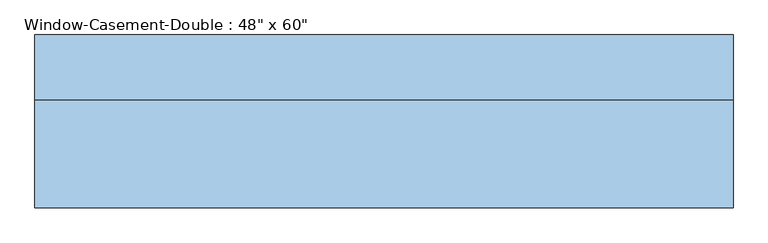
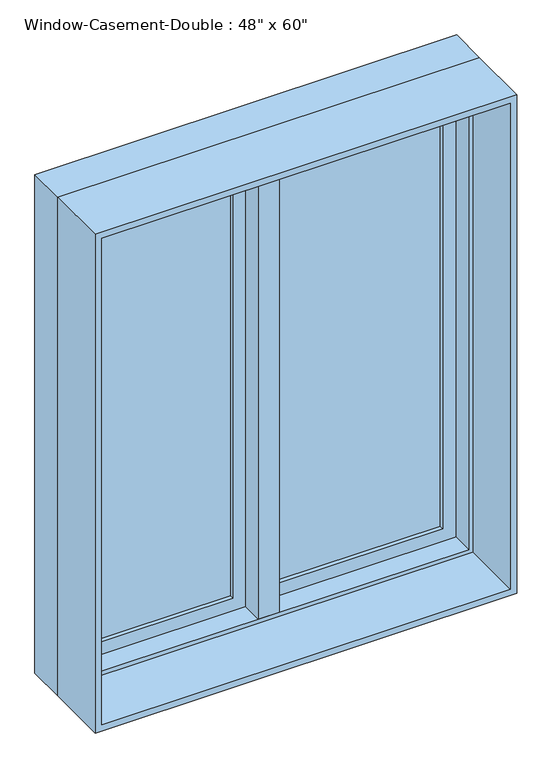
"""IFC4 building model written with IfcOpenShell, lengths in millimetres: window geometry."""

from ifc_helpers import new_model, si_unit, frame, origin, place, context, project, spatial, polyline, outline, extrude, faceted_brep, source, transform, mapped, element, save


def window_33528cc2(model_context):
    return source(origin(), model_context, "Body", "SolidModel", [
        faceted_brep([(9.525, 160.3375, 2425.7), (-9.525, 160.3375, 2425.7), (-9.525, 109.5375, 2425.7), (9.525, 109.5375, 2425.7), (9.525, 160.3375, 927.1), (9.525, 109.5375, 927.1), (-9.525, 109.5375, 927.1), (-9.525, 160.3375, 927.1), (-9.525, 109.5375, 946.15), (-9.525, 109.5375, 2406.65), (-30.1625, 109.5375, 946.15), (-30.1625, 109.5375, 2406.65), (-30.1625, 46.0375, 946.15), (-30.1625, 46.0375, 2406.65), (30.1625, 46.0375, 946.15), (30.1625, 46.0375, 2406.65), (30.1625, 109.5375, 946.15), (30.1625, 109.5375, 2406.65), (9.525, 109.5375, 946.15), (9.525, 109.5375, 2406.65)], [[[0, 1, 2, 3]], [[4, 5, 6, 7]], [[1, 0, 4, 7]], [[2, 1, 7, 6, 8, 9]], [[9, 8, 10, 11]], [[11, 10, 12, 13]], [[13, 12, 14, 15]], [[15, 14, 16, 17]], [[17, 16, 18, 19]], [[0, 3, 19, 18, 5, 4]], [[18, 8, 6, 5]], [[9, 19, 3, 2]], [[8, 18, 16, 14, 12, 10]], [[19, 9, 11, 13, 15, 17]]]),
        extrude(outline(polyline([(-66.675, 141.2875), (-66.675, 134.9375), (-539.75, 134.9375), (-539.75, 141.2875), (-66.675, 141.2875)])), frame((0.0, 0.0, 984.25), z_axis=(0.0, 0.0, 1.0), x_axis=(1.0, 0.0, 0.0)), (0.0, 0.0, 1.0), 1384.3),
        extrude(outline(polyline([(-539.75, 122.2375), (-539.75, 128.5875), (-66.675, 128.5875), (-66.675, 122.2375), (-539.75, 122.2375)])), frame((0.0, 0.0, 984.25), z_axis=(0.0, 0.0, 1.0), x_axis=(1.0, 0.0, 0.0)), (0.0, 0.0, 1.0), 1384.3),
        extrude(outline(polyline([(539.75, 141.2875), (539.75, 134.9375), (66.675, 134.9375), (66.675, 141.2875), (539.75, 141.2875)])), frame((0.0, 0.0, 984.25), z_axis=(0.0, 0.0, 1.0), x_axis=(1.0, 0.0, 0.0)), (0.0, 0.0, 1.0), 1384.3),
        extrude(outline(polyline([(66.675, 122.2375), (66.675, 128.5875), (539.75, 128.5875), (539.75, 122.2375), (66.675, 122.2375)])), frame((0.0, 0.0, 984.25), z_axis=(0.0, 0.0, 1.0), x_axis=(1.0, 0.0, 0.0)), (0.0, 0.0, 1.0), 1384.3),
        extrude(outline(polyline([(2425.7, -596.9), (927.1, -596.9), (927.1, -9.525), (2425.7, -9.525), (2425.7, -596.9)]), holes=[polyline([(2368.55, -66.675), (984.25, -66.675), (984.25, -539.75), (2368.55, -539.75), (2368.55, -66.675)])]), frame((0.0, 109.5375, 0.0), z_axis=(0.0, 1.0, 0.0), x_axis=(0.0, 0.0, 1.0)), (0.0, 0.0, 1.0), 44.45),
        extrude(outline(polyline([(927.1, 596.9), (2425.7, 596.9), (2425.7, 9.525), (927.1, 9.525), (927.1, 596.9)]), holes=[polyline([(984.25, 66.675), (2368.55, 66.675), (2368.55, 539.75), (984.25, 539.75), (984.25, 66.675)])]), frame((0.0, 109.5375, 0.0), z_axis=(0.0, 1.0, 0.0), x_axis=(0.0, 0.0, 1.0)), (0.0, 0.0, 1.0), 44.45),
        extrude(outline(polyline([(2438.4, -609.6), (914.4, -609.6), (914.4, 609.6), (2438.4, 609.6), (2438.4, -609.6)]), holes=[polyline([(2419.35, 590.55), (933.45, 590.55), (933.45, -590.55), (2419.35, -590.55), (2419.35, 590.55)])]), frame((0.0, -141.2875, 0.0), z_axis=(0.0, 1.0, 0.0), x_axis=(0.0, 0.0, 1.0)), (0.0, 0.0, 1.0), 187.325),
        faceted_brep([(577.85, 109.5375, 2406.65), (577.85, 46.0375, 2406.65), (-577.85, 46.0375, 2406.65), (-577.85, 109.5375, 2406.65), (596.9, 160.3375, 2425.7), (596.9, 109.5375, 2425.7), (-596.9, 109.5375, 2425.7), (-596.9, 160.3375, 2425.7), (609.6, 46.0375, 2438.4), (609.6, 160.3375, 2438.4), (-609.6, 160.3375, 2438.4), (-609.6, 46.0375, 2438.4), (-577.85, 46.0375, 946.15), (-577.85, 109.5375, 946.15), (-596.9, 109.5375, 927.1), (-596.9, 160.3375, 927.1), (-609.6, 160.3375, 914.4), (-609.6, 46.0375, 914.4), (577.85, 46.0375, 946.15), (577.85, 109.5375, 946.15), (596.9, 109.5375, 927.1), (596.9, 160.3375, 927.1), (609.6, 160.3375, 914.4), (609.6, 46.0375, 914.4)], [[[0, 1, 2, 3]], [[4, 5, 6, 7]], [[8, 9, 10, 11]], [[3, 2, 12, 13]], [[7, 6, 14, 15]], [[11, 10, 16, 17]], [[13, 12, 18, 19]], [[15, 14, 20, 21]], [[17, 16, 22, 23]], [[11, 17, 23, 8], [1, 18, 12, 2]], [[19, 18, 1, 0]], [[5, 20, 14, 6], [3, 13, 19, 0]], [[21, 20, 5, 4]], [[23, 22, 9, 8]], [[9, 22, 16, 10], [7, 15, 21, 4]]]),
    ])


if __name__ == "__main__":
    model = new_model("IFC4")
    model_context = context("Model", 3, world=origin())
    ifc_project = project(units=[si_unit("LENGTHUNIT", "METRE", prefix="MILLI")], contexts=[model_context])
    site = spatial("IfcSite", under=ifc_project)
    building = spatial("IfcBuilding", under=site)
    placement = place(None, origin())
    window_shape = window_33528cc2(model_context)
    element("IfcWindow", 1, ObjectType="Window-Casement-Double : 48\" x 60\"", at=placement, inside=building, context=model_context, shape_type="MappedRepresentation", body=[
        mapped(window_shape, transform((0.0, 0.0, 0.0), x_axis=(1.0, 0.0, 0.0), y_axis=(0.0, 1.0, 0.0), z_axis=(0.0, 0.0, 1.0))),
    ])
    save(model, "model.ifc")
